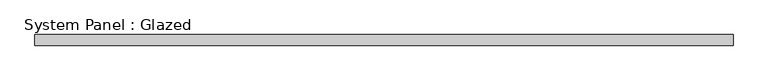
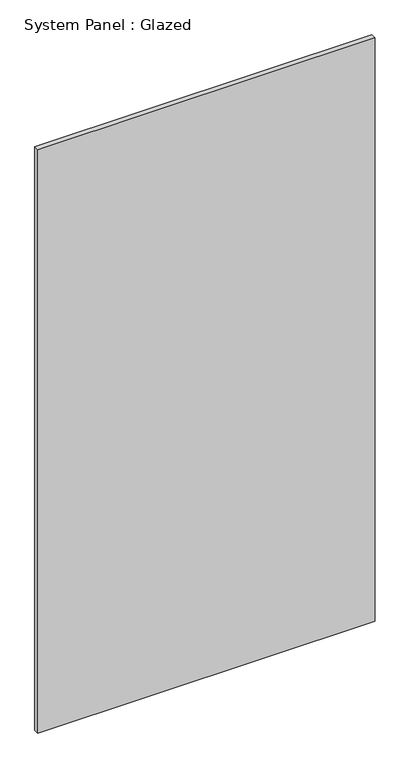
"""IFC4 building model written with IfcOpenShell, lengths in millimetres: plate geometry, System Panel : Glazed."""

from ifc_helpers import new_model, si_unit, origin, origin_with_axes, place, context, project, spatial, polyline, outline, extrude, source, transform, mapped, element, save


def system_panel_glazed_d0ac25b7(model_context):
    return source(origin(), model_context, "Body", "SweptSolid", [
        extrude(outline(polyline([(802.3750001, 19.05), (-802.3750001, 19.05), (-802.3750001, 44.45), (802.3750001, 44.45), (802.3750001, 19.05)])), origin_with_axes(), (0.0, 0.0, 1.0), 2936.5),
    ])


if __name__ == "__main__":
    model = new_model("IFC4")
    model_context = context("Model", 3, world=origin())
    ifc_project = project(units=[si_unit("LENGTHUNIT", "METRE", prefix="MILLI")], contexts=[model_context])
    site = spatial("IfcSite", under=ifc_project)
    building = spatial("IfcBuilding", under=site)
    placement = place(None, origin())
    system_panel_glazed_shape = system_panel_glazed_d0ac25b7(model_context)
    element("IfcPlate", 1, ObjectType="System Panel : Glazed", at=placement, inside=building, context=model_context, shape_type="MappedRepresentation", body=[
        mapped(system_panel_glazed_shape, transform((0.0, 0.0, 0.0), x_axis=(1.0, 0.0, 0.0), y_axis=(0.0, 1.0, 0.0), z_axis=(0.0, 0.0, 1.0))),
    ])
    save(model, "model.ifc")
